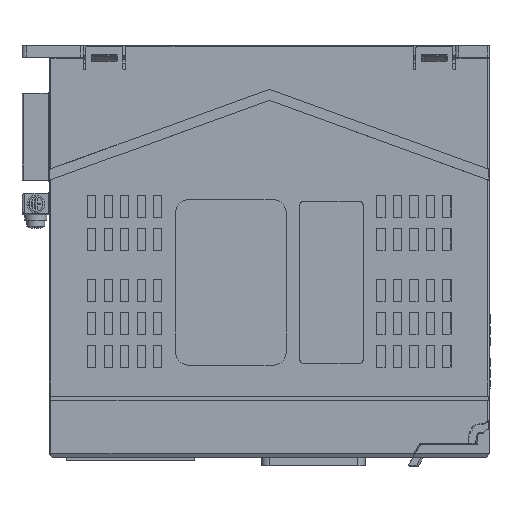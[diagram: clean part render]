
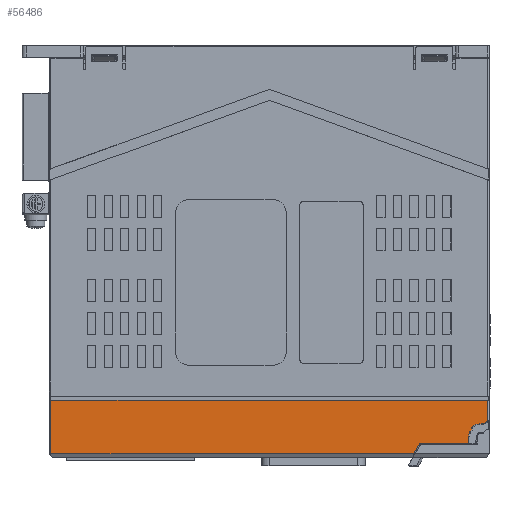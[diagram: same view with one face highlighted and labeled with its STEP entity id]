
A CAD part, left-side view. The second image highlights one B-rep face of the part: STEP entity #56486.
In plain terms, the highlighted planar face has unit normal (-1, 0, 0).
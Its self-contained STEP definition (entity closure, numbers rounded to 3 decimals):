
#22134=DIRECTION('',(0.,-1.,0.));
#22135=VECTOR('',#22134,17.423);
#22136=CARTESIAN_POINT('',(-20.,-55.202,-69.6));
#22137=LINE('',#22136,#22135);
#22141=CARTESIAN_POINT('',(-20.,-55.202,-70.4));
#22142=DIRECTION('',(1.,0.,0.));
#22143=DIRECTION('',(0.,0.866,0.5));
#22144=AXIS2_PLACEMENT_3D('',#22141,#22142,#22143);
#22149=DIRECTION('',(0.,-0.5,0.866));
#22150=VECTOR('',#22149,3.926);
#22151=CARTESIAN_POINT('',(-20.,-52.546,-73.4));
#22152=LINE('',#22151,#22150);
#22156=DIRECTION('',(0.,0.,1.));
#22157=VECTOR('',#22156,19.5);
#22158=CARTESIAN_POINT('',(-20.,79.5,-73.4));
#22159=LINE('',#22158,#22157);
#22163=DIRECTION('',(0.,-1.,0.));
#22164=VECTOR('',#22163,159.);
#22165=CARTESIAN_POINT('',(-20.,79.5,-53.9));
#22166=LINE('',#22165,#22164);
#22170=DIRECTION('',(0.,0.,1.));
#22171=VECTOR('',#22170,7.576);
#22172=CARTESIAN_POINT('',(-20.,-79.5,-61.476));
#22173=LINE('',#22172,#22171);
#22177=DIRECTION('',(0.,0.866,-0.5));
#22178=VECTOR('',#22177,2.042);
#22179=CARTESIAN_POINT('',(-20.,-79.5,-61.476));
#22180=LINE('',#22179,#22178);
#22184=CARTESIAN_POINT('',(-20.,-76.925,-66.975));
#22185=DIRECTION('',(-1.,0.,0.));
#22186=DIRECTION('',(0.,-0.177,0.984));
#22187=AXIS2_PLACEMENT_3D('',#22184,#22185,#22186);
#22192=DIRECTION('',(0.,0.122,0.993));
#22193=VECTOR('',#22192,0.702);
#22194=CARTESIAN_POINT('',(-20.,-73.782,-64.8));
#22195=LINE('',#22194,#22193);
#22199=DIRECTION('',(0.,-0.866,0.5));
#22200=VECTOR('',#22199,0.719);
#22201=CARTESIAN_POINT('',(-20.,-73.159,-65.16));
#22202=LINE('',#22201,#22200);
#22206=CARTESIAN_POINT('',(-20.,-76.925,-66.975));
#22207=DIRECTION('',(1.,0.,0.));
#22208=DIRECTION('',(0.,1.,0.));
#22209=AXIS2_PLACEMENT_3D('',#22206,#22207,#22208);
#22214=DIRECTION('',(0.,0.,1.));
#22215=VECTOR('',#22214,2.625);
#22216=CARTESIAN_POINT('',(-20.,-72.625,-69.6));
#22217=LINE('',#22216,#22215);
#23972=CARTESIAN_POINT('',(-20.,-52.546,-73.4));
#23993=DIRECTION('',(0.,-1.,0.));
#23994=VECTOR('',#23993,132.046);
#23995=CARTESIAN_POINT('',(-20.,79.5,-73.4));
#23996=LINE('',#23995,#23994);
#30339=CARTESIAN_POINT('',(-20.,-73.459,-65.679));
#30340=DIRECTION('',(1.,0.,0.));
#30341=DIRECTION('',(0.,0.937,0.35));
#30342=AXIS2_PLACEMENT_3D('',#30339,#30340,#30341);
#30430=CARTESIAN_POINT('',(-20.,-74.292,-64.031));
#30431=DIRECTION('',(1.,0.,0.));
#30432=DIRECTION('',(0.,0.993,-0.122));
#30433=AXIS2_PLACEMENT_3D('',#30430,#30431,#30432);
#36222=CARTESIAN_POINT('',(-20.,-72.625,-66.975));
#36223=VERTEX_POINT('',#36222);
#36224=CARTESIAN_POINT('',(-20.,-73.782,-64.8));
#36225=VERTEX_POINT('',#36224);
#36427=CARTESIAN_POINT('',(-20.,-73.696,-64.104));
#36428=VERTEX_POINT('',#36427);
#36429=CARTESIAN_POINT('',(-20.,-73.892,-63.584));
#36430=VERTEX_POINT('',#36429);
#36439=CARTESIAN_POINT('',(-20.,-72.897,-65.469));
#36440=VERTEX_POINT('',#36439);
#36441=CARTESIAN_POINT('',(-20.,-73.159,-65.16));
#36442=VERTEX_POINT('',#36441);
#36444=CARTESIAN_POINT('',(-20.,-77.731,-62.497));
#36446=VERTEX_POINT('',#36444);
#37020=CARTESIAN_POINT('',(-20.,-79.5,-61.476));
#37021=CARTESIAN_POINT('',(-20.,-79.5,-53.9));
#37022=VERTEX_POINT('',#37020);
#37023=VERTEX_POINT('',#37021);
#37039=CARTESIAN_POINT('',(-20.,79.5,-73.4));
#37040=CARTESIAN_POINT('',(-20.,79.5,-53.9));
#37041=VERTEX_POINT('',#37039);
#37042=VERTEX_POINT('',#37040);
#40788=CARTESIAN_POINT('',(-20.,-72.625,-69.6));
#40790=VERTEX_POINT('',#40788);
#40792=CARTESIAN_POINT('',(-20.,-55.202,-69.6));
#40793=VERTEX_POINT('',#40792);
#40798=CARTESIAN_POINT('',(-20.,-54.509,-70.));
#40799=VERTEX_POINT('',#40798);
#40803=VERTEX_POINT('',#23972);
#56453=CARTESIAN_POINT('',(-20.,80.,-74.9));
#56454=DIRECTION('',(-1.,0.,0.));
#56455=DIRECTION('',(0.,-1.,0.));
#56456=AXIS2_PLACEMENT_3D('',#56453,#56454,#56455);
#56457=PLANE('',#56456);
#56458=ORIENTED_EDGE('',*,*,#55791,.F.);
#56460=ORIENTED_EDGE('',*,*,#56459,.F.);
#56462=ORIENTED_EDGE('',*,*,#56461,.F.);
#56464=ORIENTED_EDGE('',*,*,#56463,.F.);
#56466=ORIENTED_EDGE('',*,*,#56465,.T.);
#56467=ORIENTED_EDGE('',*,*,#55268,.T.);
#56468=ORIENTED_EDGE('',*,*,#55286,.F.);
#56470=ORIENTED_EDGE('',*,*,#56469,.T.);
#56472=ORIENTED_EDGE('',*,*,#56471,.T.);
#56474=ORIENTED_EDGE('',*,*,#56473,.F.);
#56476=ORIENTED_EDGE('',*,*,#56475,.F.);
#56478=ORIENTED_EDGE('',*,*,#56477,.F.);
#56480=ORIENTED_EDGE('',*,*,#56479,.F.);
#56482=ORIENTED_EDGE('',*,*,#56481,.F.);
#56483=ORIENTED_EDGE('',*,*,#55766,.F.);
#56484=EDGE_LOOP('',(#56458,#56460,#56462,#56464,#56466,#56467,#56468,#56470,
#56472,#56474,#56476,#56478,#56480,#56482,#56483));
#56485=FACE_OUTER_BOUND('',#56484,.F.);
#56486=ADVANCED_FACE('',(#56485),#56457,.T.);
#22145=CIRCLE('',#22144,0.8);
#22188=CIRCLE('',#22187,4.55);
#22210=CIRCLE('',#22209,4.3);
#30343=CIRCLE('',#30342,0.6);
#30434=CIRCLE('',#30433,0.6);
#55268=EDGE_CURVE('',#37042,#37023,#22166,.T.);
#55286=EDGE_CURVE('',#37022,#37023,#22173,.T.);
#55766=EDGE_CURVE('',#40790,#36223,#22217,.T.);
#55791=EDGE_CURVE('',#40793,#40790,#22137,.T.);
#56459=EDGE_CURVE('',#40799,#40793,#22145,.T.);
#56461=EDGE_CURVE('',#40803,#40799,#22152,.T.);
#56463=EDGE_CURVE('',#37041,#40803,#23996,.T.);
#56465=EDGE_CURVE('',#37041,#37042,#22159,.T.);
#56469=EDGE_CURVE('',#37022,#36446,#22180,.T.);
#56471=EDGE_CURVE('',#36446,#36430,#22188,.T.);
#56473=EDGE_CURVE('',#36428,#36430,#30434,.T.);
#56475=EDGE_CURVE('',#36225,#36428,#22195,.T.);
#56477=EDGE_CURVE('',#36442,#36225,#22202,.T.);
#56479=EDGE_CURVE('',#36440,#36442,#30343,.T.);
#56481=EDGE_CURVE('',#36223,#36440,#22210,.T.);
